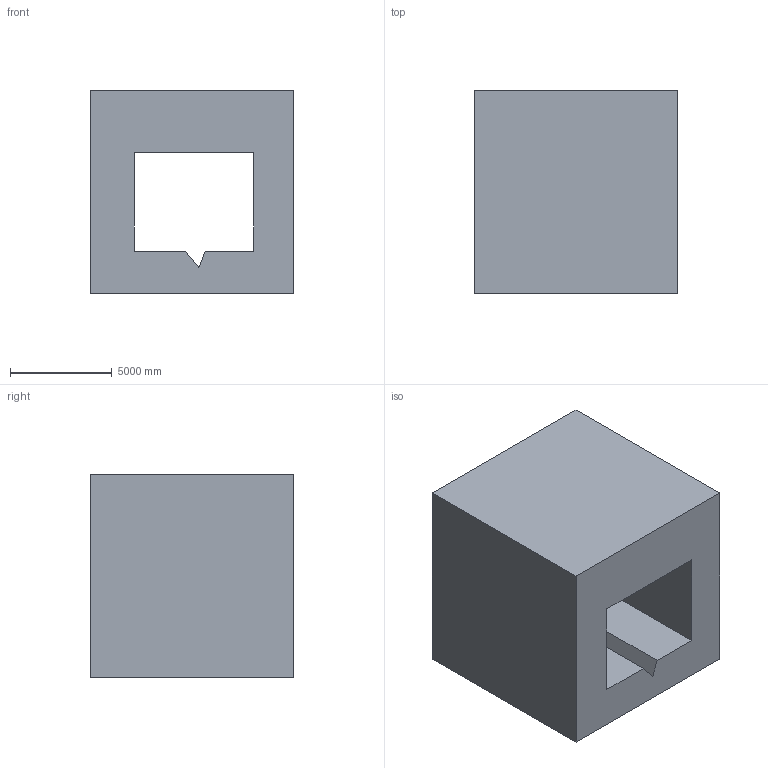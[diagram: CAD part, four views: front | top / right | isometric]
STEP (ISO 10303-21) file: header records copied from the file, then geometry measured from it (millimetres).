
FILE_DESCRIPTION (( 'STEP AP203' ), '1' );
FILE_NAME ('14.STEP', '2022-08-31T11:09:50', ( 'user' ), ( '' ), 'SwSTEP 2.0', 'SolidWorks 2021', '' );
FILE_SCHEMA (( 'CONFIG_CONTROL_DESIGN' ));
Length unit declared in the file: centimetre
Products named in the file (1): 14
Bounding box: 10000 x 10000 x 10000 mm (x, y, z)
Volume: 709380976315.4 mm3; surface area: 766479362.2 mm2
Topology: 1 solids, 1 shells, 13 faces, 33 edges, 22 vertices
Faces by surface type: plane 13
Entity records: 468 total; most frequent: CARTESIAN_POINT 69, ORIENTED_EDGE 66, DIRECTION 61, VECTOR 33, EDGE_CURVE 33, LINE 33, VERTEX_POINT 22, EDGE_LOOP 15
